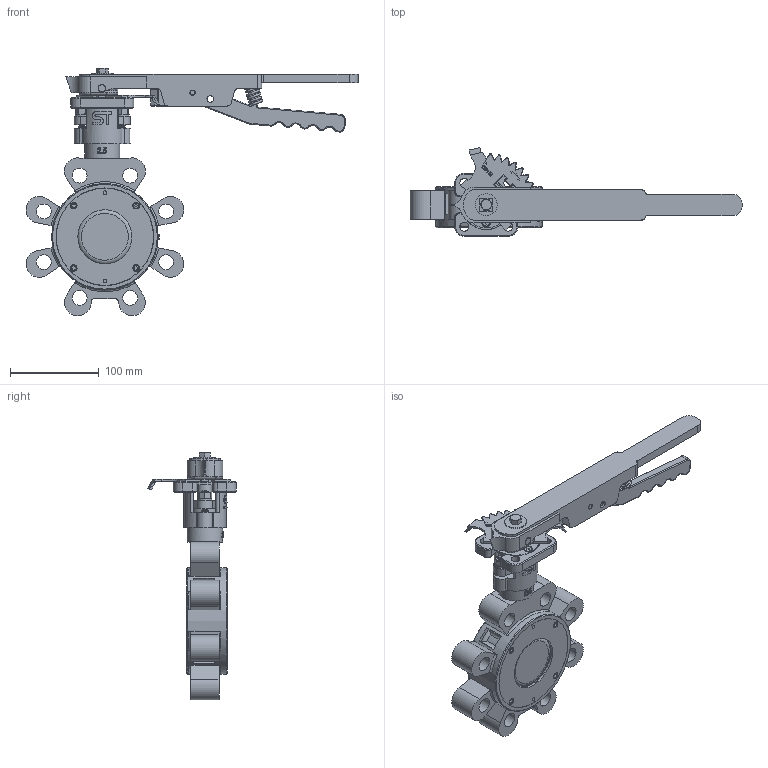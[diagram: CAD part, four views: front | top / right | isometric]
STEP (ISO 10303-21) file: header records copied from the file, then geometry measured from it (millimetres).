
FILE_DESCRIPTION(('Open CASCADE Model'),'2;1');
FILE_NAME('Open CASCADE Shape Model','2023-08-15T10:36:56',('Author'),( 'Open CASCADE'),'Open CASCADE STEP processor 7.3','Open CASCADE 7.3' ,'Unknown');
FILE_SCHEMA(('AUTOMOTIVE_DESIGN { 1 0 10303 214 1 1 1 1 }'));
Length unit declared in the file: millimetre
Products named in the file (36): Open CASCADE STEP translator 7.3 1; Open CASCADE STEP translator 7.3 1.1; Open CASCADE STEP translator 7.3 1.2; Open CASCADE STEP translator 7.3 1.3; Open CASCADE STEP translator 7.3 1.4; Open CASCADE STEP translator 7.3 1.5; Open CASCADE STEP translator 7.3 1.6; Open CASCADE STEP translator 7.3 1.7; Open CASCADE STEP translator 7.3 1.8; Open CASCADE STEP translator 7.3 1.9; Open CASCADE STEP translator 7.3 1.10; Open CASCADE STEP translator 7.3 1.11; Open CASCADE STEP translator 7.3 1.12; Open CASCADE STEP translator 7.3 1.13; Open CASCADE STEP translator 7.3 1.14; Open CASCADE STEP translator 7.3 1.15; Open CASCADE STEP translator 7.3 1.16; Open CASCADE STEP translator 7.3 1.17; Open CASCADE STEP translator 7.3 1.18; Open CASCADE STEP translator 7.3 1.19; Open CASCADE STEP translator 7.3 1.20; Open CASCADE STEP translator 7.3 1.21; Open CASCADE STEP translator 7.3 1.22; Open CASCADE STEP translator 7.3 1.23; Open CASCADE STEP translator 7.3 1.24; Open CASCADE STEP translator 7.3 1.25; Open CASCADE STEP translator 7.3 1.26; Open CASCADE STEP translator 7.3 1.27; Open CASCADE STEP translator 7.3 1.28; Open CASCADE STEP translator 7.3 1.29; Open CASCADE STEP translator 7.3 1.30; Open CASCADE STEP translator 7.3 1.31; Open CASCADE STEP translator 7.3 1.32; Open CASCADE STEP translator 7.3 1.33; Open CASCADE STEP translator 7.3 1.34; Open CASCADE STEP translator 7.3 1.35
Assembly tree (35 placements, depth 2):
  Open CASCADE STEP translator 7.3 1
    Open CASCADE STEP translator 7.3 1.1
    Open CASCADE STEP translator 7.3 1.2
    Open CASCADE STEP translator 7.3 1.3
    Open CASCADE STEP translator 7.3 1.4
    Open CASCADE STEP translator 7.3 1.5
    Open CASCADE STEP translator 7.3 1.6
    Open CASCADE STEP translator 7.3 1.7
    Open CASCADE STEP translator 7.3 1.8
    Open CASCADE STEP translator 7.3 1.9
    Open CASCADE STEP translator 7.3 1.10
    Open CASCADE STEP translator 7.3 1.11
    Open CASCADE STEP translator 7.3 1.12
    Open CASCADE STEP translator 7.3 1.13
    Open CASCADE STEP translator 7.3 1.14
    Open CASCADE STEP translator 7.3 1.15
    Open CASCADE STEP translator 7.3 1.16
    Open CASCADE STEP translator 7.3 1.17
    Open CASCADE STEP translator 7.3 1.18
    Open CASCADE STEP translator 7.3 1.19
    Open CASCADE STEP translator 7.3 1.20
    Open CASCADE STEP translator 7.3 1.21
    Open CASCADE STEP translator 7.3 1.22
    Open CASCADE STEP translator 7.3 1.23
    Open CASCADE STEP translator 7.3 1.24
    Open CASCADE STEP translator 7.3 1.25
    Open CASCADE STEP translator 7.3 1.26
    Open CASCADE STEP translator 7.3 1.27
    Open CASCADE STEP translator 7.3 1.28
    Open CASCADE STEP translator 7.3 1.29
    Open CASCADE STEP translator 7.3 1.30
    Open CASCADE STEP translator 7.3 1.31
    Open CASCADE STEP translator 7.3 1.32
    Open CASCADE STEP translator 7.3 1.33
    Open CASCADE STEP translator 7.3 1.34
    Open CASCADE STEP translator 7.3 1.35
Bounding box: 374.05 x 99.87 x 278.71 mm (x, y, z)
Volume: 860237 mm3; surface area: 276647.6 mm2
Topology: 35 solids, 35 shells, 1227 faces, 2901 edges, 1801 vertices
Faces by surface type: plane 544, cylinder 362, cone 155, torus 103, bspline 48, sphere 15
Full cylindrical faces by diameter (mm): 4.134 x2, 4.2 x2, 4.5 x8, 4.917 x1, 5 x2, 6 x8, 7 x4, 7.5 x7, 8 x10, 8.376 x1, 10 x9, 13 x1, 16 x6, 16.3 x1, 16.5 x1, 16.759 x8, 17 x1, 17.6 x2, 25 x1, 27.6 x2, 28 x4, 40 x1, 61 x1, 65 x1, 65.4 x1, 67.4 x1, 71.4 x1, 76.8 x1, 77 x1, 81 x2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
Entity records: 119464 total; most frequent: CARTESIAN_POINT 60717, DIRECTION 10950, LINE 5796, VECTOR 5796, ORIENTED_EDGE 5772, PCURVE 5772, DEFINITIONAL_REPRESENTATION 5772, EDGE_CURVE 2886
